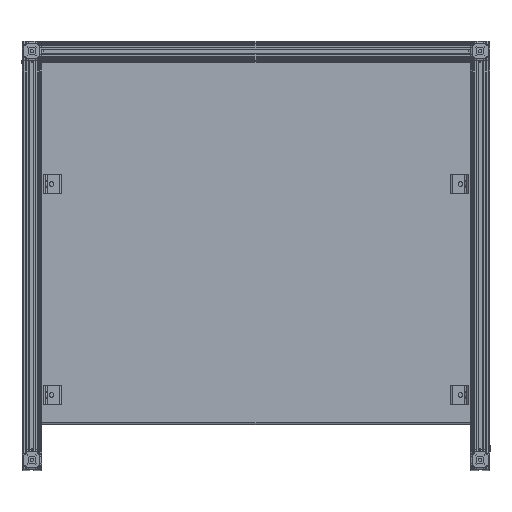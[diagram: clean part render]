
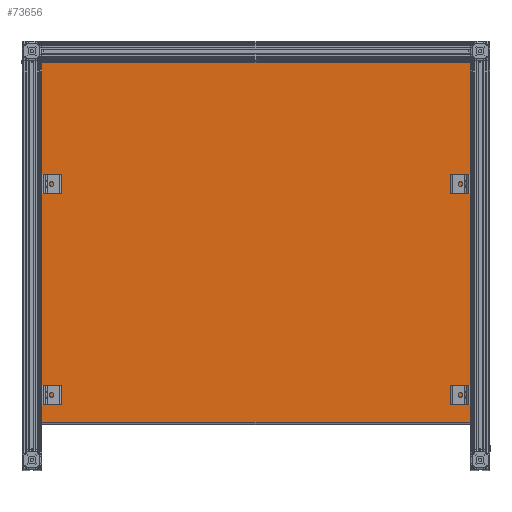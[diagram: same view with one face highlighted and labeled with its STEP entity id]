
A CAD part, top view. The second image highlights one B-rep face of the part: STEP entity #73656.
In plain terms, the highlighted planar face has unit normal (0, 0, 1).
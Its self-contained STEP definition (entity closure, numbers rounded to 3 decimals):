
#3478=PLANE('',#79542);
#7607=FACE_OUTER_BOUND('',#11689,.T.);
#11689=EDGE_LOOP('',(#69273,#69274,#69275,#69276));
#19762=LINE('',#122861,#27974);
#19822=LINE('',#123015,#28034);
#19823=LINE('',#123017,#28035);
#19824=LINE('',#123023,#28036);
#27974=VECTOR('',#98949,1000.);
#28034=VECTOR('',#99083,1000.);
#28035=VECTOR('',#99086,1000.);
#28036=VECTOR('',#99097,1000.);
#36983=VERTEX_POINT('',#122842);
#36991=VERTEX_POINT('',#122859);
#37047=VERTEX_POINT('',#123009);
#37048=VERTEX_POINT('',#123013);
#47657=EDGE_CURVE('',#36983,#36991,#19762,.T.);
#47735=EDGE_CURVE('',#37047,#37048,#19822,.T.);
#47736=EDGE_CURVE('',#36991,#37047,#19823,.T.);
#47739=EDGE_CURVE('',#37048,#36983,#19824,.T.);
#69273=ORIENTED_EDGE('',*,*,#47735,.T.);
#69274=ORIENTED_EDGE('',*,*,#47739,.T.);
#69275=ORIENTED_EDGE('',*,*,#47657,.T.);
#69276=ORIENTED_EDGE('',*,*,#47736,.T.);
#73656=ADVANCED_FACE('',(#7607),#3478,.T.);
#79542=AXIS2_PLACEMENT_3D('',#123182,#99261,#99262);
#98949=DIRECTION('',(0.,1.,0.));
#99083=DIRECTION('',(0.,-1.,0.));
#99086=DIRECTION('',(-1.,0.,0.));
#99097=DIRECTION('',(1.,0.,0.));
#99261=DIRECTION('center_axis',(0.,0.,1.));
#99262=DIRECTION('ref_axis',(1.,0.,0.));
#122842=CARTESIAN_POINT('',(352.,-337.,0.));
#122859=CARTESIAN_POINT('',(352.,237.,0.));
#122861=CARTESIAN_POINT('',(352.,237.,0.));
#123009=CARTESIAN_POINT('',(-352.,237.,0.));
#123013=CARTESIAN_POINT('',(-352.,-337.,0.));
#123015=CARTESIAN_POINT('',(-352.,-337.,0.));
#123017=CARTESIAN_POINT('',(-352.,237.,0.));
#123023=CARTESIAN_POINT('',(352.,-337.,0.));
#123182=CARTESIAN_POINT('Origin',(-355.,-340.,0.));
